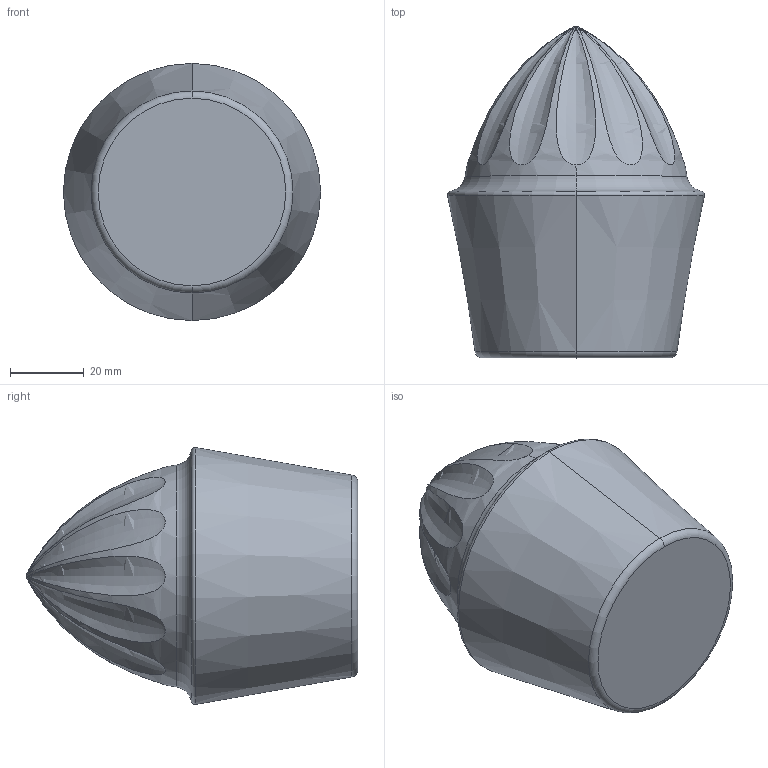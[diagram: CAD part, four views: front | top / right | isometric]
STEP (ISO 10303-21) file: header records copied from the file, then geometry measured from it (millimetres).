
FILE_DESCRIPTION (( 'STEP AP203' ), '1' );
FILE_NAME ('ORIGINAL CUP SQUIZER.STEP', '2023-09-18T05:33:53', ( '' ), ( '' ), 'SwSTEP 2.0', 'SolidWorks 2023', '' );
FILE_SCHEMA (( 'CONFIG_CONTROL_DESIGN' ));
Length unit declared in the file: millimetre
Products named in the file (1): ORIGINAL CUP SQUIZER
Bounding box: 69.66 x 89.88 x 69.66 mm (x, y, z)
Volume: 206904.5 mm3; surface area: 18610.5 mm2
Topology: 1 solids, 1 shells, 25 faces, 76 edges, 39 vertices
Faces by surface type: bspline 12, torus 8, cone 2, sphere 2, plane 1
Entity records: 6509 total; most frequent: CARTESIAN_POINT 5937, ORIENTED_EDGE 104, DIRECTION 82, EDGE_CURVE 52, AXIS2_PLACEMENT_3D 40, VERTEX_POINT 39, EDGE_LOOP 35, CIRCLE 26
